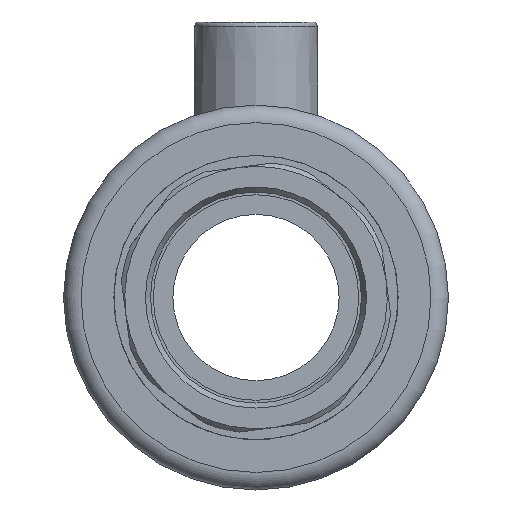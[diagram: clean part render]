
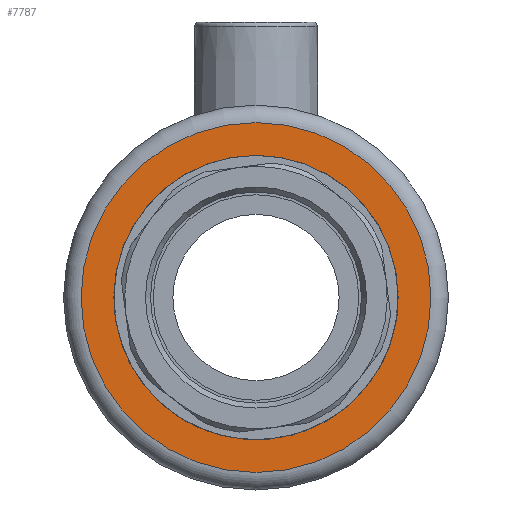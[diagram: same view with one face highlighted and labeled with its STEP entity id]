
A CAD part, left-side view. The second image highlights one B-rep face of the part: STEP entity #7787.
In plain terms, the highlighted planar face has unit normal (-1, 0, 0).
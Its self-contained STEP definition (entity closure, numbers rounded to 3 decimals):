
#860=PLANE('',#10175);
#1049=CIRCLE('',#9874,16.25);
#1182=CIRCLE('',#10176,20.);
#2536=ORIENTED_EDGE('',*,*,#4409,.T.);
#2537=ORIENTED_EDGE('',*,*,#4012,.F.);
#4012=EDGE_CURVE('',#5213,#5213,#1049,.T.);
#4409=EDGE_CURVE('',#5418,#5418,#1182,.T.);
#5213=VERTEX_POINT('',#13269);
#5418=VERTEX_POINT('',#15888);
#6546=EDGE_LOOP('',(#2536));
#6547=EDGE_LOOP('',(#2537));
#7138=FACE_BOUND('',#6546,.T.);
#7139=FACE_BOUND('',#6547,.T.);
#7787=ADVANCED_FACE('',(#7138,#7139),#860,.T.);
#9874=AXIS2_PLACEMENT_3D('',#13268,#10947,#10948);
#10175=AXIS2_PLACEMENT_3D('',#15886,#11597,#11598);
#10176=AXIS2_PLACEMENT_3D('',#15887,#11599,#11600);
#10947=DIRECTION('',(-1.,0.,0.));
#10948=DIRECTION('',(0.,0.,1.));
#11597=DIRECTION('',(-1.,0.,0.));
#11598=DIRECTION('',(0.,0.,1.));
#11599=DIRECTION('',(-1.,0.,0.));
#11600=DIRECTION('',(0.,0.,1.));
#13268=CARTESIAN_POINT('',(0.,0.,0.));
#13269=CARTESIAN_POINT('',(0.,0.,16.25));
#15886=CARTESIAN_POINT('',(0.,0.,13.5));
#15887=CARTESIAN_POINT('',(0.,0.,0.));
#15888=CARTESIAN_POINT('',(0.,0.,20.));
